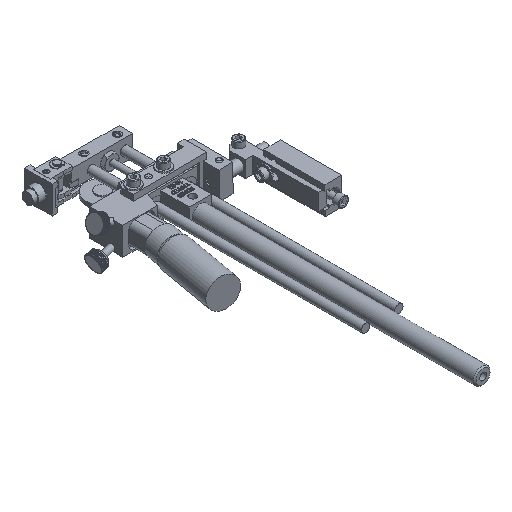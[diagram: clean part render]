
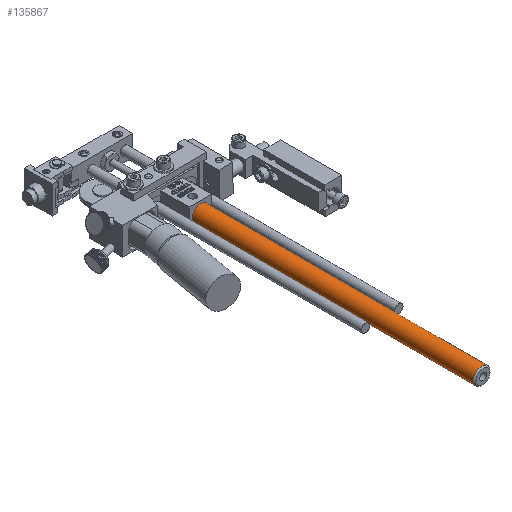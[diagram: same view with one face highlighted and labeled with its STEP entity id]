
A CAD part, isometric view. The second image highlights one B-rep face of the part: STEP entity #135867.
In plain terms, the highlighted cylindrical face has radius 4.763 mm (diameter 9.525 mm), a full revolution.
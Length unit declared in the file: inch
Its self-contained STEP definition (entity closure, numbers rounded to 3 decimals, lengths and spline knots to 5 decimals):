
#135667=CARTESIAN_POINT('',(0.44651,-2.28333,-0.04927));
#135668=VERTEX_POINT('',#135667);
#135669=CARTESIAN_POINT('',(0.44663,-2.28333,-0.23677));
#135670=DIRECTION('',(0.,1.,0.));
#135671=DIRECTION('',(0.001,0.,-1.));
#135672=AXIS2_PLACEMENT_3D('',#135669,#135670,#135671);
#135673=CIRCLE('',#135672,0.1875);
#135674=EDGE_CURVE('',#135668,#135668,#135673,.T.);
#135848=CARTESIAN_POINT('',(0.44663,-2.28333,-0.23677));
#135849=DIRECTION('',(0.,-1.0,0.));
#135850=DIRECTION('',(0.001,0.,-1.));
#135851=AXIS2_PLACEMENT_3D('',#135848,#135849,#135850);
#135852=CYLINDRICAL_SURFACE('',#135851,0.1875);
#135853=ORIENTED_EDGE('',*,*,#135674,.F.);
#135854=EDGE_LOOP('',(#135853));
#135855=FACE_OUTER_BOUND('',#135854,.T.);
#135856=CARTESIAN_POINT('',(0.44651,-8.62833,-0.04927));
#135857=VERTEX_POINT('',#135856);
#135858=CARTESIAN_POINT('',(0.44663,-8.62833,-0.23677));
#135859=DIRECTION('',(0.,-1.,0.));
#135860=DIRECTION('',(0.001,0.,-1.));
#135861=AXIS2_PLACEMENT_3D('',#135858,#135859,#135860);
#135862=CIRCLE('',#135861,0.1875);
#135863=EDGE_CURVE('',#135857,#135857,#135862,.T.);
#135864=ORIENTED_EDGE('',*,*,#135863,.F.);
#135865=EDGE_LOOP('',(#135864));
#135866=FACE_BOUND('',#135865,.T.);
#135867=ADVANCED_FACE('',(#135855,#135866),#135852,.T.);
